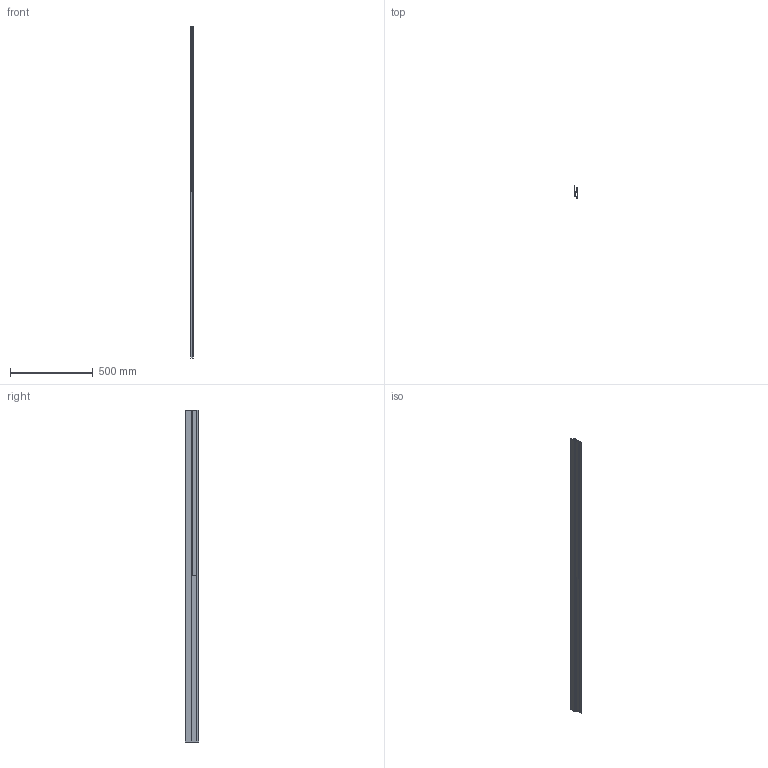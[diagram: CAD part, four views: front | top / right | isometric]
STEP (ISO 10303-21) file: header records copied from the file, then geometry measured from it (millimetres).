
FILE_DESCRIPTION (( 'STEP AP203' ), '1' );
FILE_NAME ('M12C.STEP', '2018-06-19T18:14:47', ( 'Michael Moliner' ), ( '' ), 'SwSTEP 2.0', 'SolidWorks 2018', '' );
FILE_SCHEMA (( 'CONFIG_CONTROL_DESIGN' ));
Length unit declared in the file: millimetre
Products named in the file (5): M12C.1; M12C.2; M12C
Assembly tree (2 placements, depth 2):
  M12C.1
  M12C.2
  M12C
    M12C.1
    M12C.2
Bounding box: 16.26 x 78.87 x 2000 mm (x, y, z)
Volume: 178718.7 mm3; surface area: 706869 mm2
Topology: 2 solids, 2 shells, 35 faces, 93 edges, 62 vertices
Faces by surface type: plane 24, cylinder 11
Entity records: 1546 total; most frequent: DIRECTION 197, CARTESIAN_POINT 196, ORIENTED_EDGE 186, EDGE_CURVE 93, VECTOR 71, LINE 71, AXIS2_PLACEMENT_3D 63, VERTEX_POINT 62
